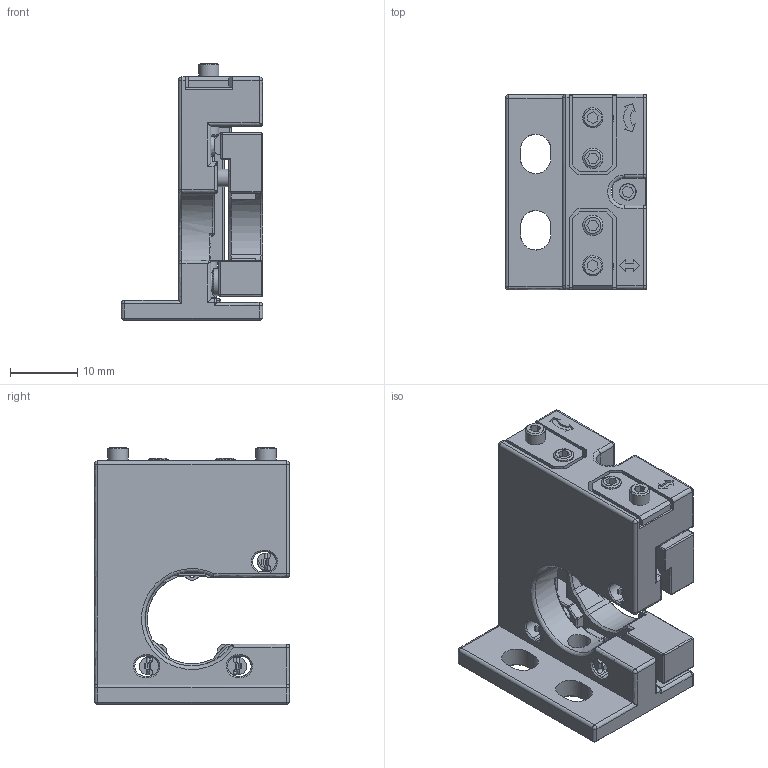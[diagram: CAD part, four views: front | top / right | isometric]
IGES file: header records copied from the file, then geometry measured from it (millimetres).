
Global section: file name: VMHV-12.7L-R_IGS; native system: Autodesk Inventor 2023; preprocessor: unknown; date: 20251015.183736; units: millimetre
Bounding box: 21 x 29 x 38.2 mm (x, y, z)
Volume: 8596.2 mm3; surface area: 8125.3 mm2
Topology: 9 solids, 15 shells, 856 faces, 2170 edges, 1361 vertices
Faces by surface type: bspline 856
